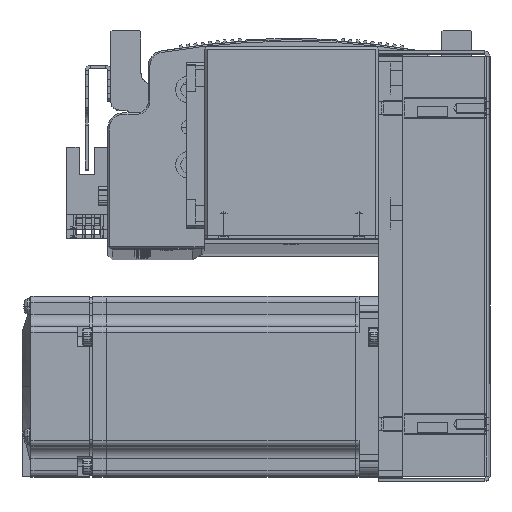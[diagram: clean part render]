
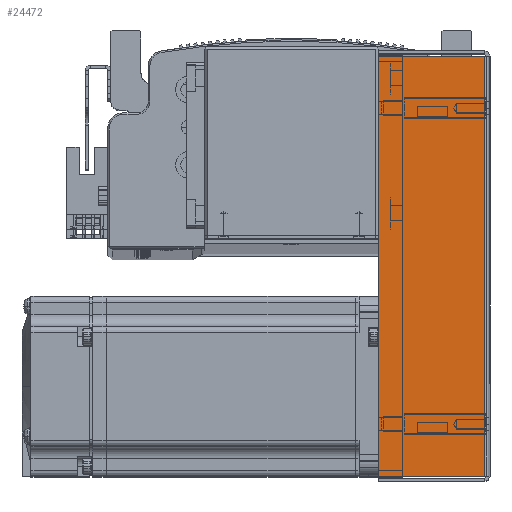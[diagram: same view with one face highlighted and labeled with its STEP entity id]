
A CAD part, top view. The second image highlights one B-rep face of the part: STEP entity #24472.
In plain terms, the highlighted planar face has unit normal (0, 0, 1).
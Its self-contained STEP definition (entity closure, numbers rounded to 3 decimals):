
#8254 = DIRECTION ( 'NONE',  ( 0., 1., 0. ) ) ;
#10079 = CARTESIAN_POINT ( 'NONE',  ( 69.793, 0., 33.5 ) ) ;
#10095 = CARTESIAN_POINT ( 'NONE',  ( 0., 36., 33.5 ) ) ;
#10106 = DIRECTION ( 'NONE',  ( -1., 0., 0. ) ) ;
#15456 = CARTESIAN_POINT ( 'NONE',  ( 69.793, 36., 33.5 ) ) ;
#15508 = CARTESIAN_POINT ( 'NONE',  ( -69.793, 36., 33.5 ) ) ;
#15538 = CARTESIAN_POINT ( 'NONE',  ( -69.793, 0.737, 33.5 ) ) ;
#15556 = CARTESIAN_POINT ( 'NONE',  ( 69.793, 0.737, 33.5 ) ) ;
#21891 = VERTEX_POINT ( 'NONE', #15538 ) ;
#21916 = VERTEX_POINT ( 'NONE', #15508 ) ;
#21918 = VERTEX_POINT ( 'NONE', #15456 ) ;
#21926 = VERTEX_POINT ( 'NONE', #15556 ) ;
#24472 = ADVANCED_FACE ( 'NONE', ( #43330 ), #41120, .F. ) ;
#37715 = AXIS2_PLACEMENT_3D ( 'NONE', #41107, #41101, #41103 ) ;
#41101 = DIRECTION ( 'NONE',  ( 0., 0., -1. ) ) ;
#41103 = DIRECTION ( 'NONE',  ( -1., 0., 0. ) ) ;
#41107 = CARTESIAN_POINT ( 'NONE',  ( 0., 0., 33.5 ) ) ;
#41120 = PLANE ( 'NONE',  #37715 ) ;
#43330 = FACE_OUTER_BOUND ( 'NONE', #46887, .T. ) ;
#46887 = EDGE_LOOP ( 'NONE', ( #53016, #52994, #52960, #53020 ) ) ;
#46921 = CARTESIAN_POINT ( 'NONE',  ( -71.5, 0.737, 33.5 ) ) ;
#46948 = DIRECTION ( 'NONE',  ( -1., 0., 0. ) ) ;
#46982 = CARTESIAN_POINT ( 'NONE',  ( -69.793, 0., 33.5 ) ) ;
#46991 = DIRECTION ( 'NONE',  ( 0., 1., 0. ) ) ;
#52960 = ORIENTED_EDGE ( 'NONE', *, *, #72512, .T. ) ;
#52994 = ORIENTED_EDGE ( 'NONE', *, *, #72526, .T. ) ;
#53016 = ORIENTED_EDGE ( 'NONE', *, *, #72559, .F. ) ;
#53020 = ORIENTED_EDGE ( 'NONE', *, *, #72598, .F. ) ;
#65346 = VECTOR ( 'NONE', #10106, 1000. ) ;
#65355 = LINE ( 'NONE', #10079, #65422 ) ;
#65392 = LINE ( 'NONE', #46921, #65447 ) ;
#65422 = VECTOR ( 'NONE', #8254, 1000. ) ;
#65431 = LINE ( 'NONE', #10095, #65346 ) ;
#65447 = VECTOR ( 'NONE', #46948, 1000. ) ;
#65484 = LINE ( 'NONE', #46982, #65500 ) ;
#65500 = VECTOR ( 'NONE', #46991, 1000. ) ;
#72512 = EDGE_CURVE ( 'NONE', #21918, #21916, #65431, .T. ) ;
#72526 = EDGE_CURVE ( 'NONE', #21926, #21918, #65355, .T. ) ;
#72559 = EDGE_CURVE ( 'NONE', #21926, #21891, #65392, .T. ) ;
#72598 = EDGE_CURVE ( 'NONE', #21891, #21916, #65484, .T. ) ;
